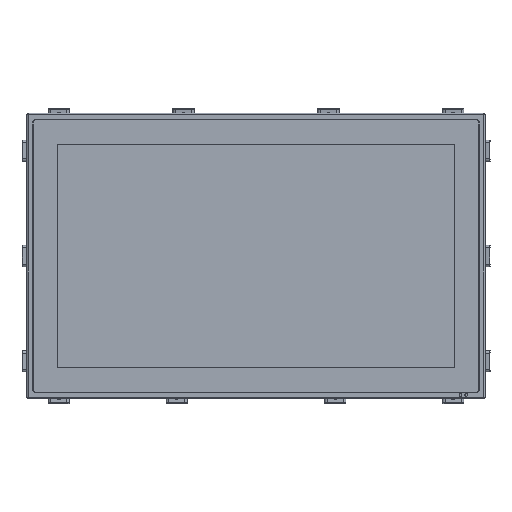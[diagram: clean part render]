
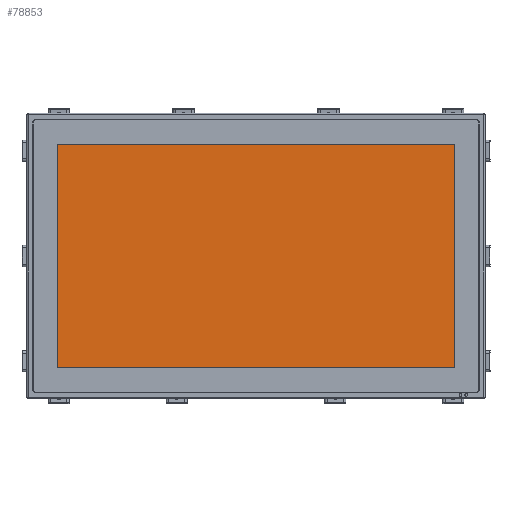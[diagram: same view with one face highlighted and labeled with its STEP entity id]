
A CAD part, top view. The second image highlights one B-rep face of the part: STEP entity #78853.
In plain terms, the highlighted planar face has unit normal (0, 0, 1).
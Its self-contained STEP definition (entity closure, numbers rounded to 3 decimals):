
#13 = EDGE_CURVE ( 'NONE', #36380, #61865, #59965, .T. ) ;
#1282 = PLANE ( 'NONE',  #8436 ) ;
#2530 = VECTOR ( 'NONE', #15885, 1000. ) ;
#3468 = ORIENTED_EDGE ( 'NONE', *, *, #21736, .T. ) ;
#3904 = CARTESIAN_POINT ( 'NONE',  ( -172.716, 97.395, 0. ) ) ;
#7613 = CARTESIAN_POINT ( 'NONE',  ( 172.716, 97.395, 0. ) ) ;
#8436 = AXIS2_PLACEMENT_3D ( 'NONE', #28819, #33348, #79170 ) ;
#13661 = FACE_OUTER_BOUND ( 'NONE', #47799, .T. ) ;
#14745 = EDGE_CURVE ( 'NONE', #61865, #16473, #18574, .T. ) ;
#15885 = DIRECTION ( 'NONE',  ( 1., 0., 0. ) ) ;
#16473 = VERTEX_POINT ( 'NONE', #7613 ) ;
#18574 = LINE ( 'NONE', #74597, #45449 ) ;
#20439 = ORIENTED_EDGE ( 'NONE', *, *, #14745, .T. ) ;
#20843 = CARTESIAN_POINT ( 'NONE',  ( -172.716, -97.395, 0. ) ) ;
#21011 = ORIENTED_EDGE ( 'NONE', *, *, #13, .T. ) ;
#21736 = EDGE_CURVE ( 'NONE', #47765, #36380, #24756, .T. ) ;
#24756 = LINE ( 'NONE', #69291, #38800 ) ;
#25607 = VECTOR ( 'NONE', #52554, 1000. ) ;
#28314 = CARTESIAN_POINT ( 'NONE',  ( 172.716, -97.395, 0. ) ) ;
#28819 = CARTESIAN_POINT ( 'NONE',  ( 0., 0., 0. ) ) ;
#33348 = DIRECTION ( 'NONE',  ( 0., 0., 1. ) ) ;
#36380 = VERTEX_POINT ( 'NONE', #37982 ) ;
#37982 = CARTESIAN_POINT ( 'NONE',  ( -172.716, -97.395, 0. ) ) ;
#38800 = VECTOR ( 'NONE', #71356, 1000. ) ;
#45449 = VECTOR ( 'NONE', #73797, 1000. ) ;
#47765 = VERTEX_POINT ( 'NONE', #72326 ) ;
#47799 = EDGE_LOOP ( 'NONE', ( #3468, #21011, #20439, #70185 ) ) ;
#52554 = DIRECTION ( 'NONE',  ( -1., 0., 0. ) ) ;
#59965 = LINE ( 'NONE', #20843, #2530 ) ;
#60700 = EDGE_CURVE ( 'NONE', #16473, #47765, #66953, .T. ) ;
#61865 = VERTEX_POINT ( 'NONE', #28314 ) ;
#66953 = LINE ( 'NONE', #3904, #25607 ) ;
#69291 = CARTESIAN_POINT ( 'NONE',  ( -172.716, 97.395, 0. ) ) ;
#70185 = ORIENTED_EDGE ( 'NONE', *, *, #60700, .T. ) ;
#71356 = DIRECTION ( 'NONE',  ( 0., -1., 0. ) ) ;
#72326 = CARTESIAN_POINT ( 'NONE',  ( -172.716, 97.395, 0. ) ) ;
#73797 = DIRECTION ( 'NONE',  ( 0., 1., 0. ) ) ;
#74597 = CARTESIAN_POINT ( 'NONE',  ( 172.716, 97.395, 0. ) ) ;
#78853 = ADVANCED_FACE ( 'NONE', ( #13661 ), #1282, .T. ) ;
#79170 = DIRECTION ( 'NONE',  ( 1., 0., 0. ) ) ;
